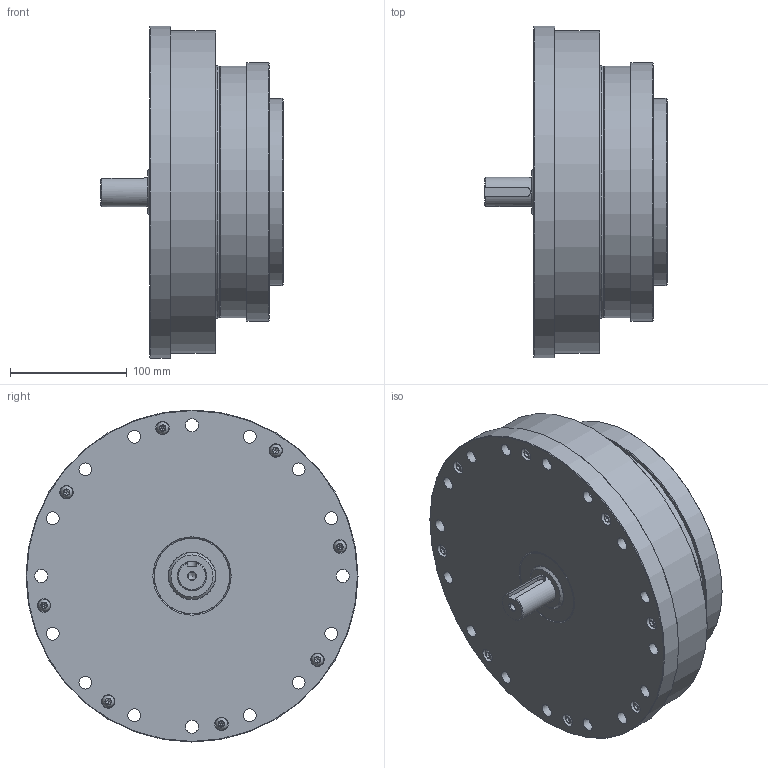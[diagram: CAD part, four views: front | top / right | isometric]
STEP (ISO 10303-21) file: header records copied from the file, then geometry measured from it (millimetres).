
FILE_DESCRIPTION (( 'STEP AP203' ), '1' );
FILE_NAME ('FHG-65-XXX-AJ.STEP', '2025-03-20T06:45:03', ( '微软用户' ), ( '微软中国' ), 'SwSTEP 2.0', 'SolidWorks 2016', '' );
FILE_SCHEMA (( 'CONFIG_CONTROL_DESIGN' ));
Length unit declared in the file: millimetre
Products named in the file (1): FHG-65-XXX-AJ
Bounding box: 156 x 284 x 284 mm (x, y, z)
Volume: 3581886.6 mm3; surface area: 1040945 mm2
Topology: 60 solids, 60 shells, 1011 faces, 2431 edges, 1585 vertices
Faces by surface type: plane 394, cylinder 339, sphere 103, torus 89, cone 86
Full cylindrical faces by diameter (mm): 2.5 x2, 3 x2, 5 x16, 6 x16, 6.6 x32, 6.8 x1, 8.5 x16, 10 x8, 11 x88, 11.5 x8, 25 x1, 30 x2, 35 x1, 37 x1, 38.4 x2, 40 x4, 40.758 x2, 41.985 x1, 45 x1, 45.5 x1, 45.915 x1, 49.5 x4, 52.8 x2, 55 x2, 56.76 x2, 59.1 x1, 59.5 x1, 65 x2, 65.7 x1, 72 x4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
Entity records: 32780 total; most frequent: CARTESIAN_POINT 10852, DIRECTION 4677, ORIENTED_EDGE 3688, AXIS2_PLACEMENT_3D 2104, EDGE_CURVE 1844, EDGE_LOOP 1825, VERTEX_POINT 1431, FACE_OUTER_BOUND 1305
